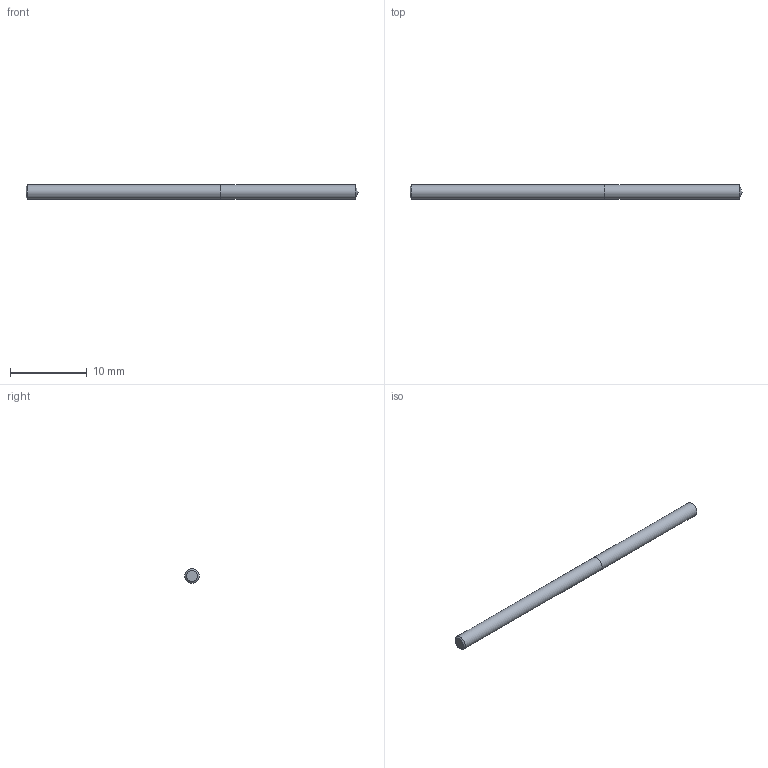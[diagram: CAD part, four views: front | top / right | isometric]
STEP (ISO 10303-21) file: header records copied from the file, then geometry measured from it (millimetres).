
FILE_DESCRIPTION (( 'STEP AP214' ), '1' );
FILE_NAME ('03-2391.STEP', '2022-06-03T07:08:28', ( 'USER' ), ( '' ), 'SwSTEP 2.0', 'SolidWorks 2018', '' );
FILE_SCHEMA (( 'AUTOMOTIVE_DESIGN' ));
Length unit declared in the file: inch
Products named in the file (1): 03-2391
Bounding box: 43.25 x 1.85 x 1.85 mm (x, y, z)
Volume: 116 mm3; surface area: 260 mm2
Topology: 2 solids, 2 shells, 7 faces, 11 edges, 7 vertices
Faces by surface type: plane 3, cylinder 2, cone 2
Full cylindrical faces by diameter (mm): 1.854 x2
Entity records: 214 total; most frequent: DIRECTION 26, CARTESIAN_POINT 18, AXIS2_PLACEMENT_3D 13, ORIENTED_EDGE 10, EDGE_LOOP 10, FACE_OUTER_BOUND 9, DIMENSIONAL_EXPONENTS 7, LENGTH_MEASURE_WITH_UNIT 7
